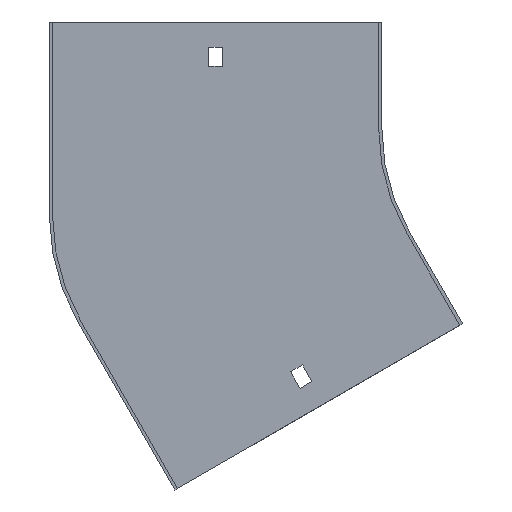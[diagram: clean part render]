
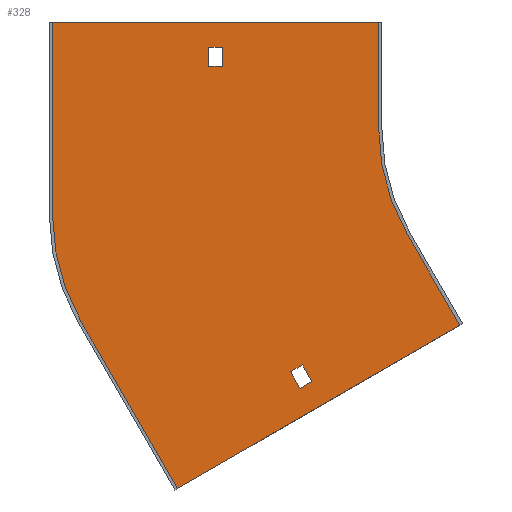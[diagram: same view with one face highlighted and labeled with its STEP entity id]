
A CAD part, front view. The second image highlights one B-rep face of the part: STEP entity #328.
In plain terms, the highlighted planar face has unit normal (0, -1, 0).
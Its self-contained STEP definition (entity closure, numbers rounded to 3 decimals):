
#9 = VECTOR ( 'NONE', #34, 1000. ) ;
#16 = DIRECTION ( 'NONE',  ( 0., 1., 0. ) ) ;
#23 = EDGE_LOOP ( 'NONE', ( #479, #482, #273, #448, #72, #153, #571, #47 ) ) ;
#27 = DIRECTION ( 'NONE',  ( 0., 0., -1. ) ) ;
#34 = DIRECTION ( 'NONE',  ( 0.866, 0., 0.5 ) ) ;
#42 = DIRECTION ( 'NONE',  ( -0.866, 0., -0.5 ) ) ;
#44 = VERTEX_POINT ( 'NONE', #242 ) ;
#47 = ORIENTED_EDGE ( 'NONE', *, *, #381, .F. ) ;
#51 = DIRECTION ( 'NONE',  ( 0.5, 0., -0.866 ) ) ;
#52 = ORIENTED_EDGE ( 'NONE', *, *, #599, .T. ) ;
#61 = CARTESIAN_POINT ( 'NONE',  ( 14.5, -1.5, -25.115 ) ) ;
#67 = VECTOR ( 'NONE', #739, 1000. ) ;
#72 = ORIENTED_EDGE ( 'NONE', *, *, #261, .F. ) ;
#73 = EDGE_CURVE ( 'NONE', #201, #112, #628, .T. ) ;
#87 = VERTEX_POINT ( 'NONE', #780 ) ;
#96 = VECTOR ( 'NONE', #123, 1000. ) ;
#110 = EDGE_CURVE ( 'NONE', #112, #399, #122, .T. ) ;
#112 = VERTEX_POINT ( 'NONE', #289 ) ;
#113 = CARTESIAN_POINT ( 'NONE',  ( -254., -1.5, -41.264 ) ) ;
#117 = LINE ( 'NONE', #61, #237 ) ;
#122 = LINE ( 'NONE', #647, #495 ) ;
#123 = DIRECTION ( 'NONE',  ( 0., 0., -1. ) ) ;
#127 = VECTOR ( 'NONE', #826, 1000. ) ;
#130 = LINE ( 'NONE', #330, #357 ) ;
#138 = EDGE_CURVE ( 'NONE', #44, #801, #148, .T. ) ;
#140 = LINE ( 'NONE', #670, #720 ) ;
#148 = LINE ( 'NONE', #477, #565 ) ;
#153 = ORIENTED_EDGE ( 'NONE', *, *, #635, .F. ) ;
#169 = VERTEX_POINT ( 'NONE', #812 ) ;
#186 = DIRECTION ( 'NONE',  ( 0., 0., -1. ) ) ;
#189 = CARTESIAN_POINT ( 'NONE',  ( 0., -1.5, 0. ) ) ;
#191 = FACE_BOUND ( 'NONE', #691, .T. ) ;
#198 = CARTESIAN_POINT ( 'NONE',  ( -100., -1.5, 50. ) ) ;
#201 = VERTEX_POINT ( 'NONE', #610 ) ;
#215 = ORIENTED_EDGE ( 'NONE', *, *, #73, .F. ) ;
#219 = CIRCLE ( 'NONE', #707, 100. ) ;
#224 = CARTESIAN_POINT ( 'NONE',  ( -254., -1.5, -41.264 ) ) ;
#237 = VECTOR ( 'NONE', #445, 1000. ) ;
#242 = CARTESIAN_POINT ( 'NONE',  ( -254., -1.5, 50. ) ) ;
#261 = EDGE_CURVE ( 'NONE', #87, #749, #140, .T. ) ;
#262 = CARTESIAN_POINT ( 'NONE',  ( -180.25, -1.5, 38. ) ) ;
#273 = ORIENTED_EDGE ( 'NONE', *, *, #540, .F. ) ;
#289 = CARTESIAN_POINT ( 'NONE',  ( -131.472, -1.5, -119.784 ) ) ;
#291 = ORIENTED_EDGE ( 'NONE', *, *, #683, .T. ) ;
#301 = FACE_BOUND ( 'NONE', #543, .T. ) ;
#309 = CARTESIAN_POINT ( 'NONE',  ( 19., -1.5, -32.909 ) ) ;
#316 = CARTESIAN_POINT ( 'NONE',  ( -173.75, -1.5, 29. ) ) ;
#321 = DIRECTION ( 'NONE',  ( 0., 0., 1. ) ) ;
#323 = CARTESIAN_POINT ( 'NONE',  ( -135.972, -1.5, -111.99 ) ) ;
#324 = ORIENTED_EDGE ( 'NONE', *, *, #809, .F. ) ;
#328 = ADVANCED_FACE ( 'NONE', ( #301, #458, #191 ), #715, .T. ) ;
#330 = CARTESIAN_POINT ( 'NONE',  ( -180.25, -1.5, 0. ) ) ;
#336 = CARTESIAN_POINT ( 'NONE',  ( -86.603, -1.5, -50. ) ) ;
#357 = VECTOR ( 'NONE', #321, 1000. ) ;
#366 = CARTESIAN_POINT ( 'NONE',  ( 0., -1.5, 29. ) ) ;
#375 = CARTESIAN_POINT ( 'NONE',  ( 0., -1.5, 38. ) ) ;
#377 = DIRECTION ( 'NONE',  ( 0., -1., 0. ) ) ;
#381 = EDGE_CURVE ( 'NONE', #801, #556, #521, .T. ) ;
#382 = VERTEX_POINT ( 'NONE', #595 ) ;
#384 = EDGE_CURVE ( 'NONE', #640, #201, #590, .T. ) ;
#399 = VERTEX_POINT ( 'NONE', #323 ) ;
#411 = DIRECTION ( 'NONE',  ( 1., 0., 0. ) ) ;
#427 = DIRECTION ( 'NONE',  ( 0., -1., 0. ) ) ;
#445 = DIRECTION ( 'NONE',  ( -0.866, 0., -0.5 ) ) ;
#448 = ORIENTED_EDGE ( 'NONE', *, *, #530, .F. ) ;
#458 = FACE_OUTER_BOUND ( 'NONE', #23, .T. ) ;
#477 = CARTESIAN_POINT ( 'NONE',  ( -255.5, -1.5, 50. ) ) ;
#479 = ORIENTED_EDGE ( 'NONE', *, *, #138, .F. ) ;
#482 = ORIENTED_EDGE ( 'NONE', *, *, #619, .F. ) ;
#492 = CARTESIAN_POINT ( 'NONE',  ( -173.75, -1.5, 0. ) ) ;
#495 = VECTOR ( 'NONE', #534, 1000. ) ;
#499 = DIRECTION ( 'NONE',  ( 0., 0., 1. ) ) ;
#516 = ORIENTED_EDGE ( 'NONE', *, *, #813, .T. ) ;
#521 = LINE ( 'NONE', #198, #96 ) ;
#530 = EDGE_CURVE ( 'NONE', #749, #621, #615, .T. ) ;
#534 = DIRECTION ( 'NONE',  ( -0.5, 0., 0.866 ) ) ;
#540 = EDGE_CURVE ( 'NONE', #621, #652, #804, .T. ) ;
#543 = EDGE_LOOP ( 'NONE', ( #830, #215, #626, #324 ) ) ;
#545 = CARTESIAN_POINT ( 'NONE',  ( -100., -1.5, 0. ) ) ;
#549 = CARTESIAN_POINT ( 'NONE',  ( -194.97, -1.5, -170.301 ) ) ;
#556 = VERTEX_POINT ( 'NONE', #545 ) ;
#559 = LINE ( 'NONE', #113, #776 ) ;
#565 = VECTOR ( 'NONE', #411, 1000. ) ;
#571 = ORIENTED_EDGE ( 'NONE', *, *, #592, .F. ) ;
#581 = VECTOR ( 'NONE', #51, 1000. ) ;
#582 = VECTOR ( 'NONE', #855, 1000. ) ;
#590 = LINE ( 'NONE', #863, #581 ) ;
#592 = EDGE_CURVE ( 'NONE', #556, #847, #219, .T. ) ;
#595 = CARTESIAN_POINT ( 'NONE',  ( -180.25, -1.5, 29. ) ) ;
#599 = EDGE_CURVE ( 'NONE', #695, #382, #700, .T. ) ;
#608 = AXIS2_PLACEMENT_3D ( 'NONE', #611, #16, #729 ) ;
#610 = CARTESIAN_POINT ( 'NONE',  ( -137.101, -1.5, -123.034 ) ) ;
#611 = CARTESIAN_POINT ( 'NONE',  ( -154., -1.5, -41.264 ) ) ;
#615 = LINE ( 'NONE', #549, #67 ) ;
#619 = EDGE_CURVE ( 'NONE', #652, #44, #559, .T. ) ;
#621 = VERTEX_POINT ( 'NONE', #829 ) ;
#626 = ORIENTED_EDGE ( 'NONE', *, *, #384, .F. ) ;
#628 = LINE ( 'NONE', #309, #9 ) ;
#635 = EDGE_CURVE ( 'NONE', #847, #87, #641, .T. ) ;
#637 = DIRECTION ( 'NONE',  ( -1., 0., 0. ) ) ;
#640 = VERTEX_POINT ( 'NONE', #822 ) ;
#641 = LINE ( 'NONE', #835, #127 ) ;
#647 = CARTESIAN_POINT ( 'NONE',  ( -150.472, -1.5, -86.875 ) ) ;
#650 = CARTESIAN_POINT ( 'NONE',  ( -194.97, -1.5, -170.301 ) ) ;
#652 = VERTEX_POINT ( 'NONE', #224 ) ;
#670 = CARTESIAN_POINT ( 'NONE',  ( -60.304, -1.5, -92.551 ) ) ;
#683 = EDGE_CURVE ( 'NONE', #169, #695, #690, .T. ) ;
#686 = CARTESIAN_POINT ( 'NONE',  ( 0., -1.5, 0. ) ) ;
#690 = LINE ( 'NONE', #492, #846 ) ;
#691 = EDGE_LOOP ( 'NONE', ( #516, #291, #52, #716 ) ) ;
#693 = AXIS2_PLACEMENT_3D ( 'NONE', #189, #377, #186 ) ;
#695 = VERTEX_POINT ( 'NONE', #316 ) ;
#700 = LINE ( 'NONE', #366, #832 ) ;
#707 = AXIS2_PLACEMENT_3D ( 'NONE', #686, #427, #27 ) ;
#709 = CARTESIAN_POINT ( 'NONE',  ( -100., -1.5, 50. ) ) ;
#715 = PLANE ( 'NONE',  #693 ) ;
#716 = ORIENTED_EDGE ( 'NONE', *, *, #719, .T. ) ;
#719 = EDGE_CURVE ( 'NONE', #382, #821, #130, .T. ) ;
#720 = VECTOR ( 'NONE', #42, 1000. ) ;
#729 = DIRECTION ( 'NONE',  ( 0., 0., -1. ) ) ;
#739 = DIRECTION ( 'NONE',  ( -0.5, 0., 0.866 ) ) ;
#749 = VERTEX_POINT ( 'NONE', #650 ) ;
#760 = DIRECTION ( 'NONE',  ( 0., 0., -1. ) ) ;
#776 = VECTOR ( 'NONE', #499, 1000. ) ;
#780 = CARTESIAN_POINT ( 'NONE',  ( -61.603, -1.5, -93.301 ) ) ;
#801 = VERTEX_POINT ( 'NONE', #709 ) ;
#804 = CIRCLE ( 'NONE', #608, 100. ) ;
#809 = EDGE_CURVE ( 'NONE', #399, #640, #117, .T. ) ;
#812 = CARTESIAN_POINT ( 'NONE',  ( -173.75, -1.5, 38. ) ) ;
#813 = EDGE_CURVE ( 'NONE', #821, #169, #858, .T. ) ;
#821 = VERTEX_POINT ( 'NONE', #262 ) ;
#822 = CARTESIAN_POINT ( 'NONE',  ( -141.601, -1.5, -115.24 ) ) ;
#826 = DIRECTION ( 'NONE',  ( 0.5, 0., -0.866 ) ) ;
#829 = CARTESIAN_POINT ( 'NONE',  ( -240.603, -1.5, -91.264 ) ) ;
#830 = ORIENTED_EDGE ( 'NONE', *, *, #110, .F. ) ;
#832 = VECTOR ( 'NONE', #637, 1000. ) ;
#835 = CARTESIAN_POINT ( 'NONE',  ( -86.603, -1.5, -50. ) ) ;
#846 = VECTOR ( 'NONE', #760, 1000. ) ;
#847 = VERTEX_POINT ( 'NONE', #336 ) ;
#855 = DIRECTION ( 'NONE',  ( 1., 0., 0. ) ) ;
#858 = LINE ( 'NONE', #375, #582 ) ;
#863 = CARTESIAN_POINT ( 'NONE',  ( -156.101, -1.5, -90.125 ) ) ;
